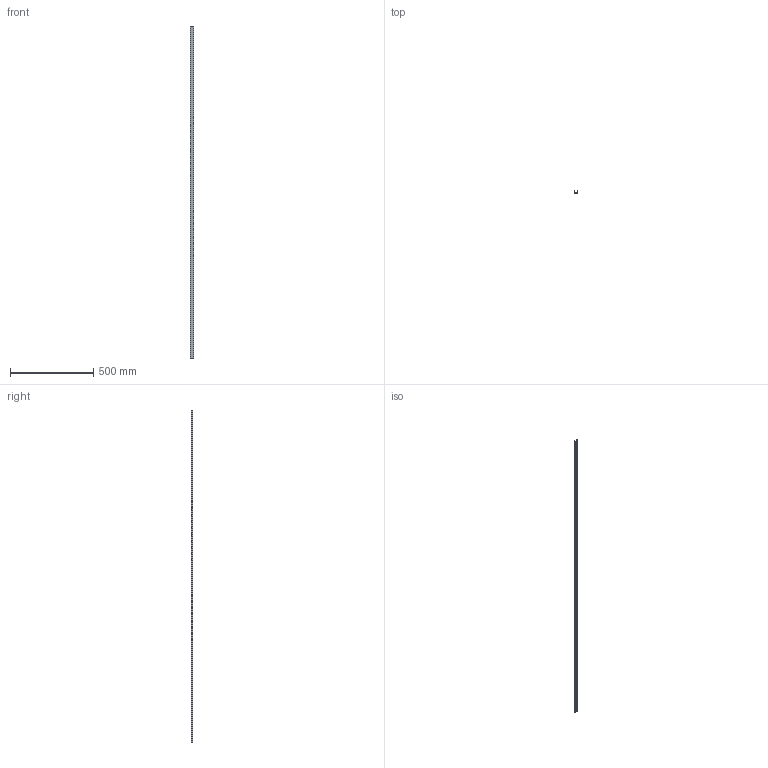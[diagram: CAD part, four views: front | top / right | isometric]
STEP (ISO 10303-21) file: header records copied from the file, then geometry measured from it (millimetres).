
FILE_DESCRIPTION (( 'STEP AP214' ), '1' );
FILE_NAME ('Strong LED profil FANTO 2m - 342530_3D.STEP', '2019-09-02T07:47:31', ( '' ), ( '' ), 'SwSTEP 2.0', 'SolidWorks 2019', '' );
FILE_SCHEMA (( 'AUTOMOTIVE_DESIGN' ));
Length unit declared in the file: millimetre
Products named in the file (1): Strong LED profil FANTO 2m - 342530_3D
Bounding box: 23.5 x 10 x 2000 mm (x, y, z)
Volume: 104003.1 mm3; surface area: 170765.6 mm2
Topology: 1 solids, 1 shells, 33 faces, 93 edges, 62 vertices
Faces by surface type: plane 19, cylinder 14
Entity records: 1109 total; most frequent: CARTESIAN_POINT 189, DIRECTION 189, ORIENTED_EDGE 186, EDGE_CURVE 93, VECTOR 65, LINE 65, AXIS2_PLACEMENT_3D 62, VERTEX_POINT 62
